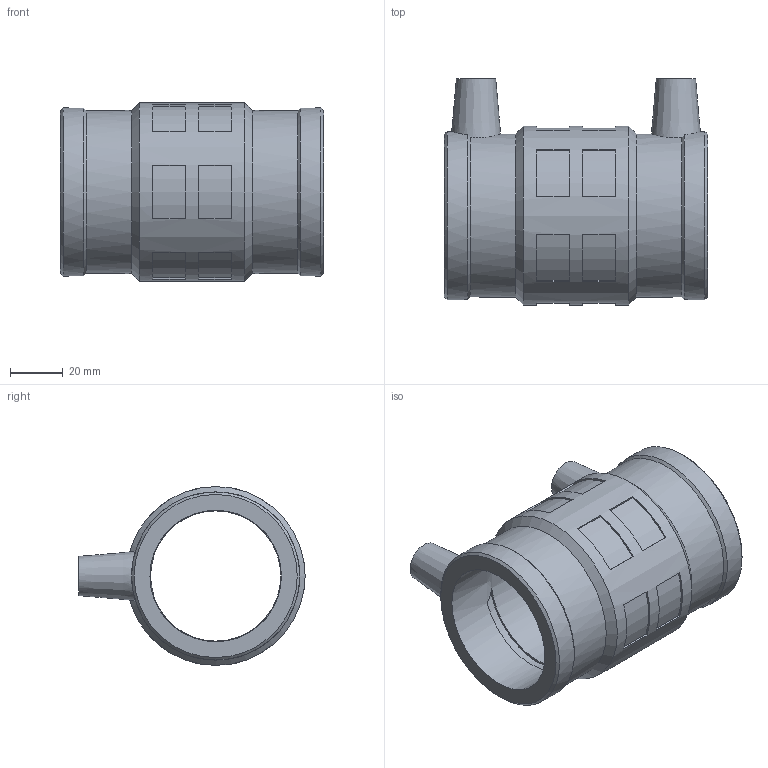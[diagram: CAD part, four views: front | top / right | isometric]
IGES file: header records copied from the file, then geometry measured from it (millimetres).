
Global section: file name: 460104050.ipt; native system: Autodesk Inventor 2015; preprocessor: unknown; author: KIM; date: 20171106.093410; units: millimetre
Bounding box: 100 x 86 x 68 mm (x, y, z)
Volume: 140322.7 mm3; surface area: 43074.1 mm2
Topology: 1 solids, 1 shells, 98 faces, 240 edges, 160 vertices
Faces by surface type: plane 60, cylinder 19, cone 12, revolution 7
Full cylindrical faces by diameter (mm): 4 x2, 62.002 x2, 63.92 x2, 68 x1
